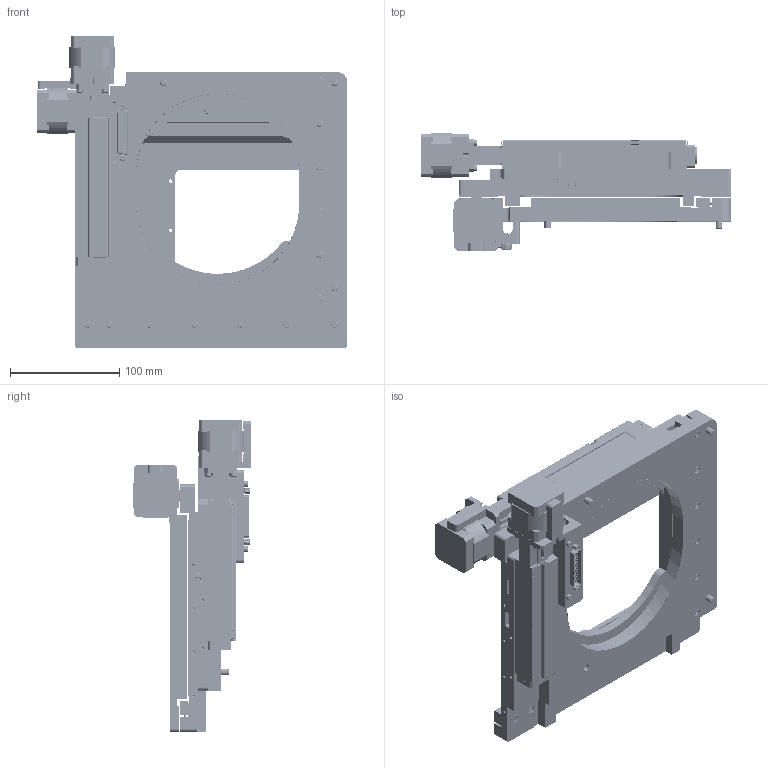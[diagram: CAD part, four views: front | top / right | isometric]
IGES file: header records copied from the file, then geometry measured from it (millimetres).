
Start section: SolidWorks IGES file using analytic representation for surfaces
Global section: file name: C:\1-DATA-FILES-FOR-PROJECTS\2022-PRODUCT-REFERENCE-MODELS\6-SECOND-BATCH-STAGES\11-H117N1M4\2-H117N1M4-REFERENCE-PARTS\H117N1M4_REFRENCE-IGES.IGS; native system: SolidWorks 2019; preprocessor: SolidWorks 2019; author: jwilliams; date: 220208.123025; units: inch
Bounding box: 285 x 108.9 x 286.05 mm (x, y, z)
Surface area: 498542.1 mm2 (no closed solid volume)
Topology: 0 solids, 0 shells, 5073 faces, 61715 edges, 61511 vertices
Faces by surface type: bspline 2660, revolution 2413
